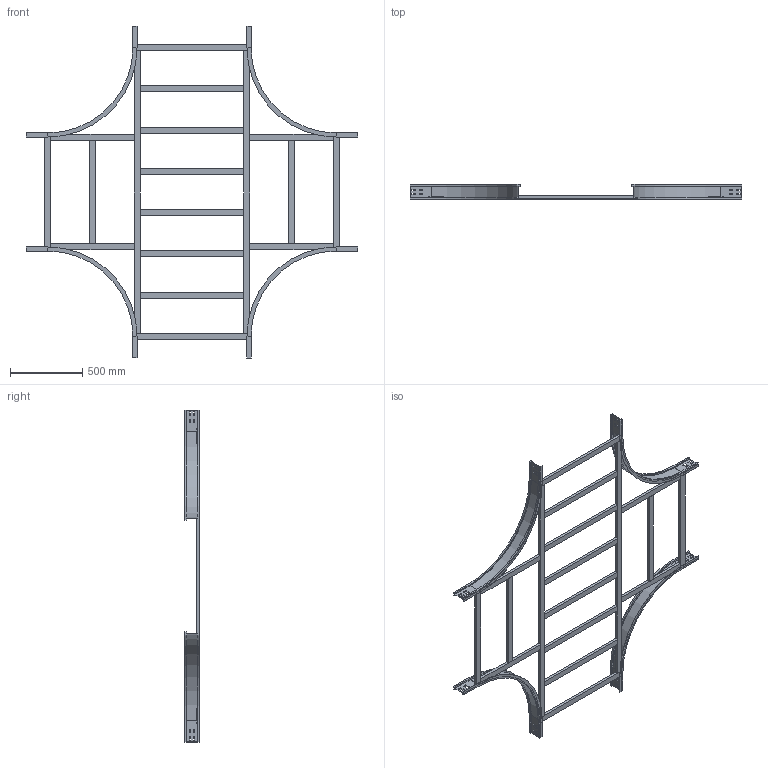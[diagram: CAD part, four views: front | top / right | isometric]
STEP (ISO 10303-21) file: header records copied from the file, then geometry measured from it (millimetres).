
FILE_DESCRIPTION (( 'STEP AP214' ), '1' );
FILE_NAME ('17S6D800.step', '2025-02-21T16:16:48', ( '' ), ( '' ), 'SwSTEP 2.0', 'SolidWorks 2023', '' );
FILE_SCHEMA (( 'AUTOMOTIVE_DESIGN' ));
Length unit declared in the file: millimetre
Products named in the file (7): TRAVERSINO_800; 17S6D800; TRAVERSINO_LONG._R600+800; TRAVERSINO_INTERMEDIO_X_R600+800; LONGH.INTERNO 90°_H100_R600; TRAVERSINO_VERT_R600; TRAVERSINO_COPPIA_800
Assembly tree (22 placements, depth 2):
  17S6D800
    LONGH.INTERNO 90°_H100_R600  x4
    TRAVERSINO_800  x4
    TRAVERSINO_LONG._R600+800  x2
    TRAVERSINO_INTERMEDIO_X_R600+800  x6
    TRAVERSINO_VERT_R600  x4
    TRAVERSINO_COPPIA_800  x2
Bounding box: 2300 x 100 x 2300 mm (x, y, z)
Volume: 14906671.9 mm3; surface area: 3335605 mm2
Topology: 22 solids, 22 shells, 388 faces, 936 edges, 592 vertices
Faces by surface type: plane 364, cylinder 24
Entity records: 3204 total; most frequent: CARTESIAN_POINT 517, DIRECTION 502, ORIENTED_EDGE 480, EDGE_CURVE 240, LINE 228, VECTOR 228, VERTEX_POINT 152, AXIS2_PLACEMENT_3D 137
